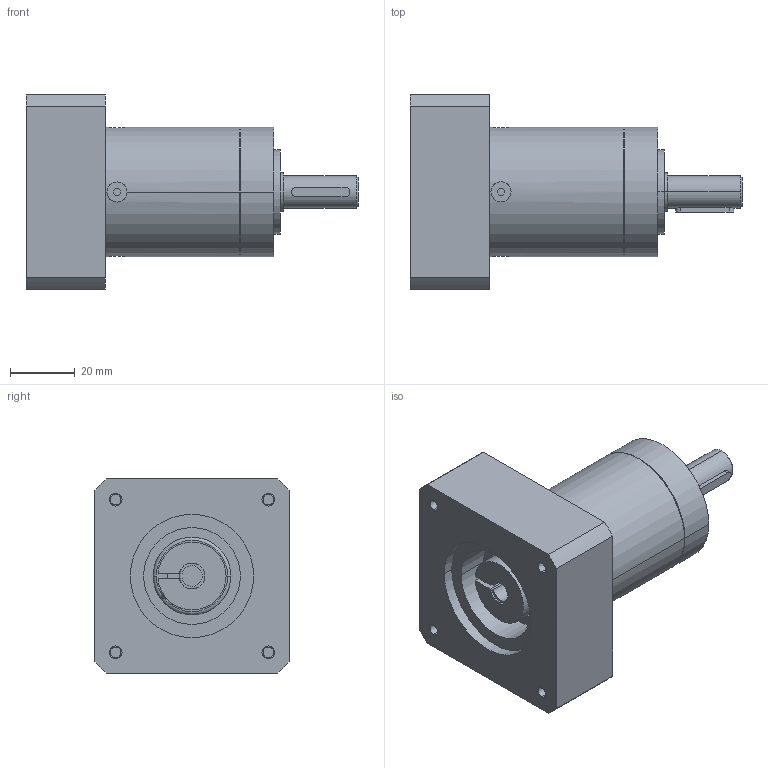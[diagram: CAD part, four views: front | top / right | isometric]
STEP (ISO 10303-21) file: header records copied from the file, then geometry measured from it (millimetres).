
FILE_DESCRIPTION((''),'2;1');
FILE_NAME('MB_PLE_MASTER','2020-02-10T',('agw'),(''),'CREO PARAMETRIC BY PTC INC, 2015290','CREO PARAMETRIC BY PTC INC, 2015290','');
FILE_SCHEMA(('AUTOMOTIVE_DESIGN { 1 0 10303 214 1 1 1 1 }'));
Length unit declared in the file: millimetre
Products named in the file (1): MB_PLE_MASTER
Bounding box: 102.5 x 60 x 60 mm (x, y, z)
Volume: 146250.5 mm3; surface area: 25898.8 mm2
Topology: 1 solids, 10 shells, 192 faces, 443 edges, 285 vertices
Faces by surface type: cylinder 94, plane 86, cone 6, torus 6
Entity records: 6578 total; most frequent: CARTESIAN_POINT 1136, DIRECTION 995, ORIENTED_EDGE 846, EDGE_CURVE 441, AXIS2_PLACEMENT_3D 380, VERTEX_POINT 285, VECTOR 235, LINE 235
